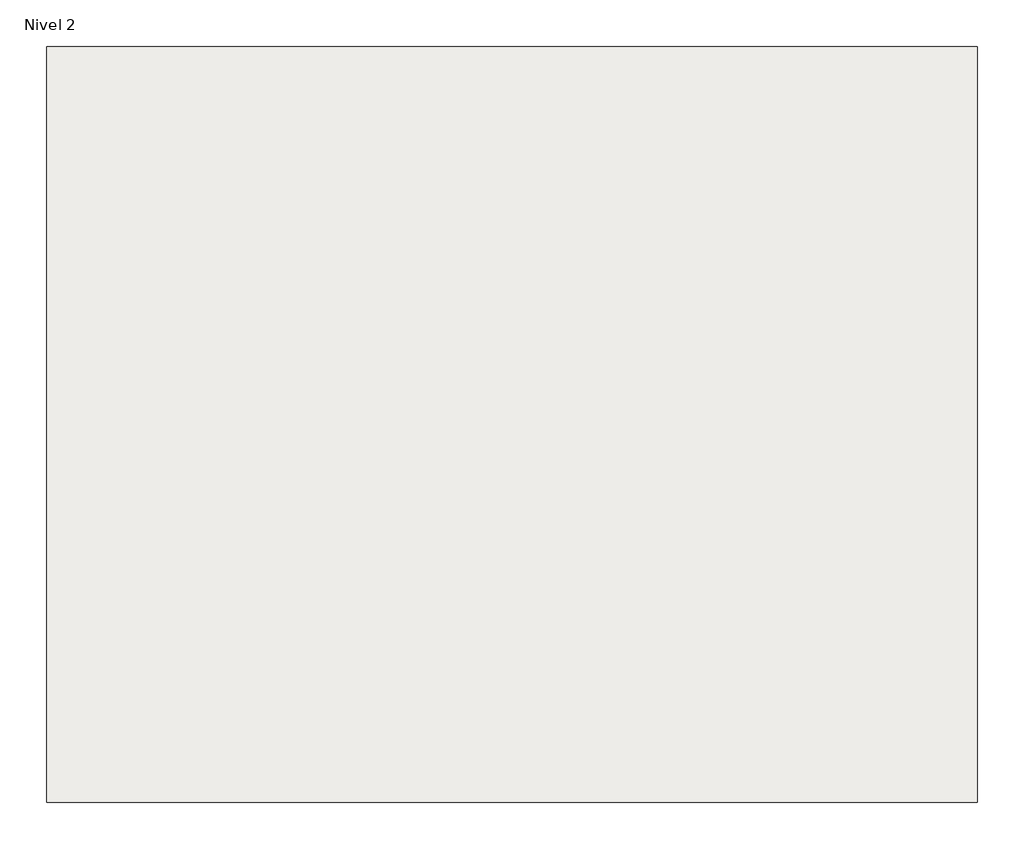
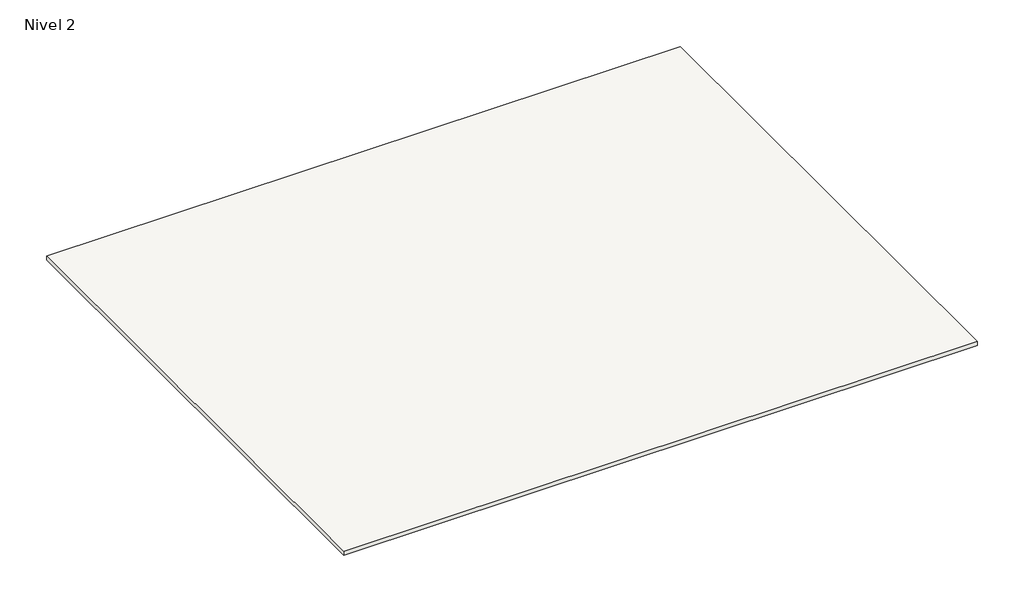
# One storey, incomplete: 1 slab.
"""IFC4 building model written with IfcOpenShell, lengths in millimetres."""

from ifc_helpers import new_model, si_unit, frame, origin, place, context, project, spatial, polyline, outline, extrude, element, save

model = new_model("IFC4")

# Units and contexts
model_context = context("Model", 3, world=origin())
ifc_project = project(units=[si_unit("LENGTHUNIT", "METRE", prefix="MILLI")], contexts=[model_context])

# Site, building, storey
site = spatial("IfcSite", under=ifc_project)
building = spatial("IfcBuilding", under=site)
storey = spatial("IfcBuildingStorey", under=building, Name="Nivel 2", Elevation=4000.0)

# Slab
placement = place(None, origin())
element("IfcSlab", 1, ObjectType="Genérico 150 mm", at=placement, inside=storey, context=model_context, shape_type="SweptSolid", body=[
    extrude(outline(polyline([(15469.9091008, 11934.4131014), (15469.9091008, -6665.5868986), (-7430.0908992, -6665.5868986), (-7430.0908992, 11934.4131014), (15469.9091008, 11934.4131014)])), frame((0.0, 0.0, 3850.0), z_axis=(0.0, 0.0, 1.0), x_axis=(1.0, 0.0, 0.0)), (0.0, 0.0, 1.0), 150.0),
])

save(model, "model.ifc")
